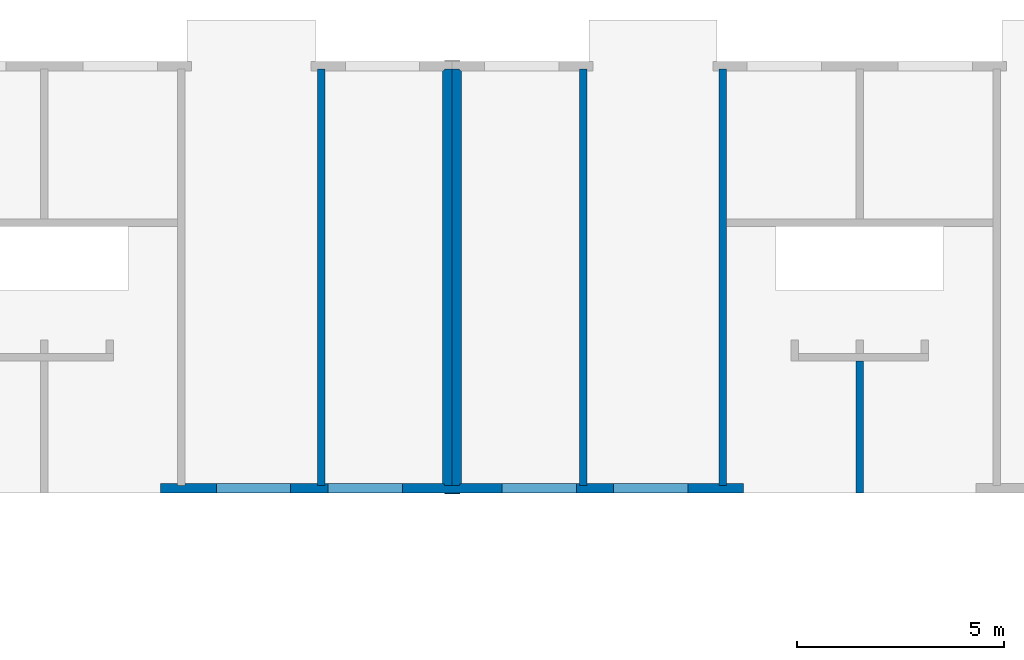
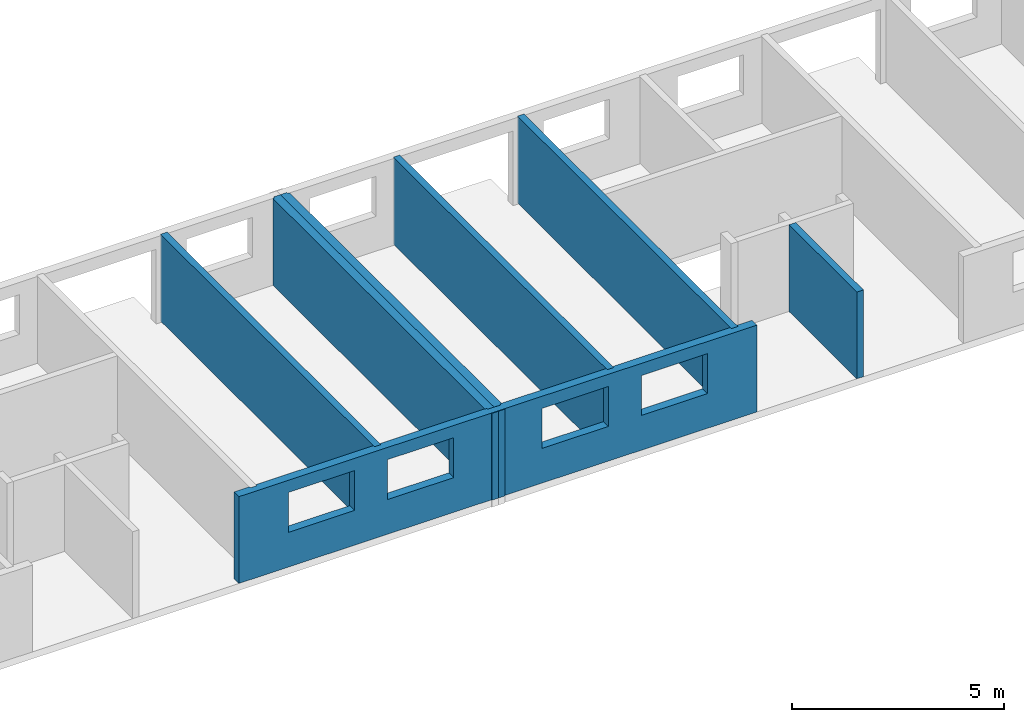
# One storey, part 4 of 9: 9 walls, 4 openings.
"""IFC2X3 building model written with IfcOpenShell, lengths in millimetres."""

from ifc_helpers import new_model, entity, si_unit, converted_unit, frame, frame_2d, origin, origin_with_axes, place, context, subcontext, project, spatial, polyline, rectangle, outline, extrude, material, layer, layer_set, layer_usage, element, save


model = new_model("IFC2X3")

# Units and contexts
model_context = context("Model", 3, precision=1e-05, world=origin())
plan_context = context("Plan", 3, precision=1e-05, world=origin())
body_context = subcontext(model_context, "Body", "Model", "MODEL_VIEW")
ifc_project = project(units=[si_unit("LENGTHUNIT", "METRE", prefix="MILLI"), converted_unit("PLANEANGLEUNIT", "DEGREE", entity("IfcPlaneAngleMeasure", 0.0174532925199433), si_unit("PLANEANGLEUNIT", "RADIAN"), dimensions=[0, 0, 0, 0, 0, 0, 0]), si_unit("AREAUNIT", "SQUARE_METRE"), si_unit("VOLUMEUNIT", "CUBIC_METRE")], contexts=[model_context, plan_context])

# Building, storey
building_placement = place(None, origin())
building = spatial("IfcBuilding", under=ifc_project, at=building_placement, Name="Bâtiment", CompositionType="ELEMENT")
storey_placement = place(building_placement, frame((0.0, 0.0, 5400.0), z_axis=(0.0, 0.0, 1.0), x_axis=(1.0, 0.0, 0.0)))
storey = spatial("IfcBuildingStorey", under=building, at=storey_placement, Name="r+2", CompositionType="ELEMENT", Elevation=5400.0)

# Walls
ifc_material_1 = material(Name="moellons")
ifc_layer_1 = layer(ifc_material_1, 180.0)
ifc_material_2 = material(Name="briquettes")
ifc_layer_2 = layer(ifc_material_2, 40.0)
ifc_material_3 = material(Name="enduit platre")
ifc_layer_3 = layer(ifc_material_3, 10.0)
ifc_layer_set_1 = layer_set([ifc_layer_1, ifc_layer_2, ifc_layer_3])
ifc_layer_usage_1 = layer_usage(ifc_layer_set_1, "AXIS2", "POSITIVE", 0.0)
wall_1_placement = place(storey_placement, frame((19849.99999999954, 10290.07776548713, 0.0), z_axis=(0.0, 0.0, 1.0), x_axis=(-3.605559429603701e-16, -1.0, 0.0)))
element("IfcWallStandardCase", 1, at=wall_1_placement, inside=storey, material=ifc_layer_usage_1, context=body_context, shape_type="SweptSolid", body=[
    extrude(outline(polyline([(0.0, 0.0), (10089.91497192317, 0.0), (10089.91497192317, 180.0), (10049.91497192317, 180.0), (10049.91497192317, 220.0), (10039.91497192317, 220.0), (10039.91497192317, 230.0), (49.99999999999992, 230.0), (49.99999999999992, 220.0), (39.99999999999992, 220.0), (39.99999999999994, 180.0), (-6.490006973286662e-14, 180.0), (0.0, 0.0)])), origin_with_axes(), (0.0, 0.0, 1.0), 2500.0),
])
ifc_material_4 = material(Name="moellons")
ifc_layer_4 = layer(ifc_material_4, 180.0)
ifc_material_5 = material(Name="briquettes")
ifc_layer_5 = layer(ifc_material_5, 40.0)
ifc_material_6 = material(Name="enduit platre")
ifc_layer_6 = layer(ifc_material_6, 10.0)
ifc_layer_set_2 = layer_set([ifc_layer_4, ifc_layer_5, ifc_layer_6])
ifc_layer_usage_2 = layer_usage(ifc_layer_set_2, "AXIS2", "POSITIVE", 0.0)
wall_2_placement = place(storey_placement, frame((19849.99999999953, 200.16279356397, 0.0), z_axis=(0.0, 0.0, 1.0), x_axis=(0.0, 1.0, 0.0)))
element("IfcWallStandardCase", 2, at=wall_2_placement, inside=storey, material=ifc_layer_usage_2, context=body_context, shape_type="SweptSolid", body=[
    extrude(outline(polyline([(0.0, 0.0), (10089.91497192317, 0.0), (10089.91497192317, 180.0), (10049.91497192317, 180.0), (10049.91497192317, 220.0), (10039.91497192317, 220.0), (10039.91497192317, 230.0), (50.0, 230.0), (50.0, 220.0), (40.0, 220.0), (40.0, 180.0), (0.0, 180.0), (0.0, 0.0)])), origin_with_axes(), (0.0, 0.0, 1.0), 2500.0),
])
ifc_material_7 = material(Name="moellons")
ifc_layer_7 = layer(ifc_material_7, 20.16279356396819)
ifc_layer_set_3 = layer_set([ifc_layer_7])
ifc_layer_usage_3 = layer_usage(ifc_layer_set_3, "AXIS2", "POSITIVE", 0.0)
wall_3_placement = place(storey_placement, frame((20029.99999999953, 1.818989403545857e-12, 0.0), z_axis=(0.0, 0.0, 1.0), x_axis=(-1.0, 0.0, 0.0)))
element("IfcWallStandardCase", 3, at=wall_3_placement, inside=storey, material=ifc_layer_usage_3, context=body_context, shape_type="SweptSolid", body=[
    extrude(rectangle(XDim=180.0, YDim=20.16279356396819, at=frame_2d((90.0, 10.0813967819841), x_axis=(1.0, 0.0))), frame((0.0, -20.16279356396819, 0.0), z_axis=(0.0, 0.0, 1.0), x_axis=(1.0, 0.0, 0.0)), (0.0, 0.0, 1.0), 2500.0),
])
ifc_material_8 = material(Name="moellons")
ifc_layer_8 = layer(ifc_material_8, 20.16279356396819)
ifc_layer_set_4 = layer_set([ifc_layer_8])
ifc_layer_usage_4 = layer_usage(ifc_layer_set_4, "AXIS2", "POSITIVE", 0.0)
wall_4_placement = place(storey_placement, frame((19849.99999999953, 1.818989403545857e-12, 0.0), z_axis=(0.0, 0.0, 1.0), x_axis=(-1.0, 0.0, 0.0)))
element("IfcWallStandardCase", 4, at=wall_4_placement, inside=storey, material=ifc_layer_usage_4, context=body_context, shape_type="SweptSolid", body=[
    extrude(rectangle(XDim=180.0, YDim=20.16279356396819, at=frame_2d((90.0, 10.0813967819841), x_axis=(1.0, 0.0))), frame((0.0, -20.16279356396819, 0.0), z_axis=(0.0, 0.0, 1.0), x_axis=(1.0, 0.0, 0.0)), (0.0, 0.0, 1.0), 2500.0),
])
ifc_material_9 = material(Name="moellons")
ifc_layer_9 = layer(ifc_material_9, 180.0)
ifc_layer_set_5 = layer_set([ifc_layer_9])
ifc_layer_usage_5 = layer_usage(ifc_layer_set_5, "AXIS2", "POSITIVE", 0.0)
wall_5_placement = place(storey_placement, frame((16770.00000000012, 200.0775509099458, 0.0), z_axis=(0.0, 0.0, 1.0), x_axis=(0.0, 1.0, 0.0)))
element("IfcWallStandardCase", 5, at=wall_5_placement, inside=storey, material=ifc_layer_usage_5, context=body_context, shape_type="SweptSolid", body=[
    extrude(rectangle(XDim=10090.00021457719, YDim=180.0, at=frame_2d((5045.000107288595, 90.0), x_axis=(1.0, 0.0))), origin_with_axes(), (0.0, 0.0, 1.0), 2500.0),
])
ifc_material_10 = material(Name="moellons")
ifc_layer_10 = layer(ifc_material_10, 180.0)
ifc_layer_set_6 = layer_set([ifc_layer_10])
ifc_layer_usage_6 = layer_usage(ifc_layer_set_6, "AXIS2", "POSITIVE", 0.0)
wall_6_placement = place(storey_placement, frame((23109.99999999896, 200.077550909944, 0.0), z_axis=(0.0, 0.0, 1.0), x_axis=(0.0, 1.0, 0.0)))
element("IfcWallStandardCase", 6, at=wall_6_placement, inside=storey, material=ifc_layer_usage_6, context=body_context, shape_type="SweptSolid", body=[
    extrude(rectangle(XDim=10090.00021457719, YDim=180.0, at=frame_2d((5045.000107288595, 90.0), x_axis=(1.0, 0.0))), origin_with_axes(), (0.0, 0.0, 1.0), 2500.0),
])
ifc_material_11 = material(Name="moellons")
ifc_layer_11 = layer(ifc_material_11, 180.0)
ifc_layer_set_7 = layer_set([ifc_layer_11])
ifc_layer_usage_7 = layer_usage(ifc_layer_set_7, "AXIS2", "POSITIVE", 0.0)
wall_7_placement = place(storey_placement, frame((26490.00006176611, 200.077550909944, 0.0), z_axis=(0.0, 0.0, 1.0), x_axis=(0.0, 1.0, 0.0)))
element("IfcWallStandardCase", 7, at=wall_7_placement, inside=storey, material=ifc_layer_usage_7, context=body_context, shape_type="SweptSolid", body=[
    extrude(rectangle(XDim=10090.00021457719, YDim=180.0, at=frame_2d((5045.000107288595, 90.0), x_axis=(1.0, 0.0))), origin_with_axes(), (0.0, 0.0, 1.0), 2500.0),
])
ifc_material_12 = material(Name="moellons")
ifc_layer_12 = layer(ifc_material_12, 180.0)
ifc_layer_set_8 = layer_set([ifc_layer_12])
ifc_layer_usage_8 = layer_usage(ifc_layer_set_8, "AXIS2", "POSITIVE", 0.0)
wall_8_placement = place(storey_placement, frame((29804.99999999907, 20.03893477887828, 0.0), z_axis=(0.0, 0.0, 1.0), x_axis=(0.0, 1.0, 0.0)))
element("IfcWallStandardCase", 8, at=wall_8_placement, inside=storey, material=ifc_layer_usage_8, context=body_context, shape_type="SweptSolid", body=[
    extrude(outline(polyline([(0.0, 0.0), (3200.038830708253, 0.0), (3200.038830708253, 180.0), (-0.0007169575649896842, 180.0), (0.0, 0.0)])), origin_with_axes(), (0.0, 0.0, 1.0), 2500.0),
])

# Wall, openings
ifc_material_13 = material(Name="moellons")
ifc_layer_13 = layer(ifc_material_13, 179.9956502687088)
ifc_material_14 = material(Name="briquettes")
ifc_layer_14 = layer(ifc_material_14, 40.0)
ifc_material_15 = material(Name="enduit platre")
ifc_layer_15 = layer(ifc_material_15, 10.0)
ifc_layer_set_9 = layer_set([ifc_layer_13, ifc_layer_14, ifc_layer_15])
ifc_layer_usage_9 = layer_usage(ifc_layer_set_9, "AXIS2", "POSITIVE", 0.0)
wall_9_placement = place(storey_placement, frame((12795.00000000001, 20.16279356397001, 0.0), z_axis=(0.0, 0.0, 1.0), x_axis=(1.0, 0.0, 0.0)))
wall_9 = element("IfcWallStandardCase", 9, at=wall_9_placement, inside=storey, material=ifc_layer_usage_9, context=body_context, shape_type="SweptSolid", body=[
    extrude(outline(polyline([(7274.999999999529, 230.0), (7274.999999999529, 220.0), (7234.999999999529, 220.0), (7234.999999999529, 180.0), (6874.999999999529, 180.0), (6874.999999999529, 220.0), (6834.999999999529, 220.0), (6834.999999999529, 230.0), (3975.000000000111, 230.0), (3975.000000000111, 179.9147573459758), (3795.000000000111, 179.9147573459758), (3795.000000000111, 230.0), (594.9999381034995, 230.0), (594.9999381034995, 179.9147573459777), (414.9999381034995, 179.9147573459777), (414.9999381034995, 230.0), (0.0, 230.0), (0.0, 0.0), (14110.00054685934, 0.0), (14110.00054685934, 230.0), (13695.0000617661, 230.0), (13695.0000617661, 179.914757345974), (13515.0000617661, 179.914757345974), (13515.0000617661, 230.0), (10314.99999999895, 230.0), (10314.99999999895, 179.914757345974), (10134.99999999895, 179.914757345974), (10134.99999999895, 230.0), (7274.999999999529, 230.0)])), origin_with_axes(), (0.0, 0.0, 1.0), 2500.0),
])
opening_1_placement = place(wall_9_placement, frame((1349.999999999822, 0.0, 1000.0), z_axis=(0.0, 1.0, 0.0), x_axis=(0.0, 0.0, 1.0)))
element("IfcOpeningElement", 10, at=opening_1_placement, cuts=wall_9, Name="Baie de fenêtre", ObjectType="Opening", context=body_context, shape_type="SweptSolid", body=[
    extrude(rectangle(XDim=1150.0, YDim=1800.0, at=frame_2d((575.0, 900.0), x_axis=(1.0, 0.0))), origin_with_axes(), (0.0, 0.0, 1.0), 230.0),
])
opening_2_placement = place(wall_9_placement, frame((4049.999999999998, 0.0, 1000.0), z_axis=(0.0, 1.0, 0.0), x_axis=(0.0, 0.0, 1.0)))
element("IfcOpeningElement", 11, at=opening_2_placement, cuts=wall_9, Name="Baie de fenêtre", ObjectType="Opening", context=body_context, shape_type="SweptSolid", body=[
    extrude(rectangle(XDim=1150.0, YDim=1800.0, at=frame_2d((575.0, 900.0), x_axis=(1.0, 0.0))), origin_with_axes(), (0.0, 0.0, 1.0), 230.0),
])
opening_3_placement = place(wall_9_placement, frame((8259.99999999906, 0.0, 1000.0), z_axis=(0.0, 1.0, 0.0), x_axis=(0.0, 0.0, 1.0)))
element("IfcOpeningElement", 12, at=opening_3_placement, cuts=wall_9, Name="Baie de fenêtre", ObjectType="Opening", context=body_context, shape_type="SweptSolid", body=[
    extrude(rectangle(XDim=1150.0, YDim=1800.0, at=frame_2d((575.0, 900.0), x_axis=(1.0, 0.0))), origin_with_axes(), (0.0, 0.0, 1.0), 230.0),
])
opening_4_placement = place(wall_9_placement, frame((10959.99999999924, 0.0, 1000.0), z_axis=(0.0, 1.0, 0.0), x_axis=(0.0, 0.0, 1.0)))
element("IfcOpeningElement", 13, at=opening_4_placement, cuts=wall_9, Name="Baie de fenêtre", ObjectType="Opening", context=body_context, shape_type="SweptSolid", body=[
    extrude(rectangle(XDim=1150.0, YDim=1800.0, at=frame_2d((575.0, 900.0), x_axis=(1.0, 0.0))), origin_with_axes(), (0.0, 0.0, 1.0), 230.0),
])

save(model, "model.ifc")
